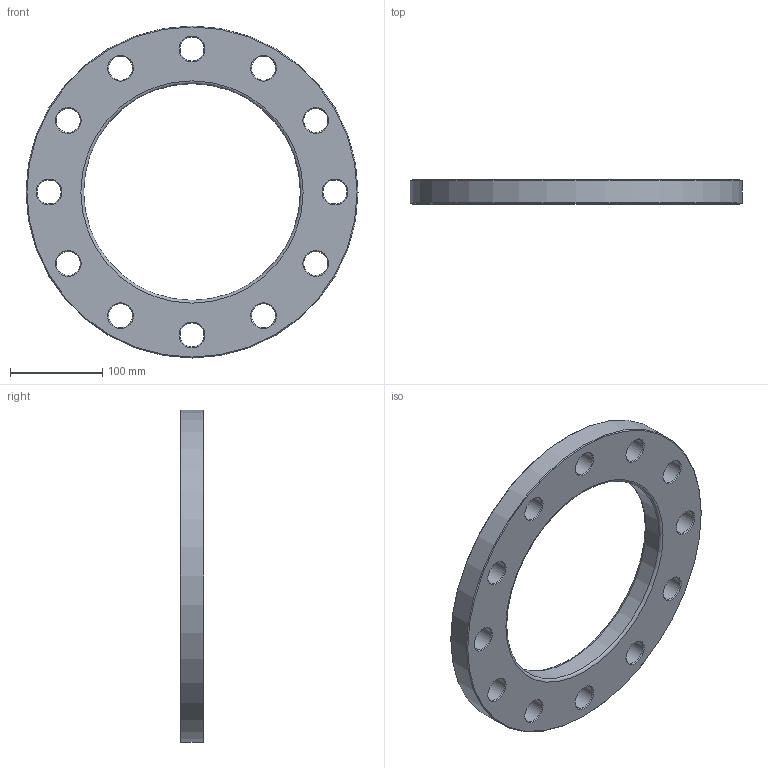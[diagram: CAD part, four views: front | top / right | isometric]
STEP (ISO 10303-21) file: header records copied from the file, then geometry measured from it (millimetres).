
FILE_DESCRIPTION(/* description */ ('Unknown'),/* implementation_level */ '2;1');
FILE_NAME(/* name */ 'FZ200H',/* time_stamp */ '2021-03-15T12:43:46+01:00',/* author */ ('Unknown'),/* organization */ ('Unknown'),/* preprocessor_version */ 'ST-DEVELOPER v16.7',/* originating_system */ 'Solid Edge',/* authorisation */ 'Unknown');
FILE_SCHEMA (('AUTOMOTIVE_DESIGN {1 0 10303 214 3 1 1}'));
Length unit declared in the file: millimetre
Products named in the file (1): FZ200H
Bounding box: 360 x 26 x 360 mm (x, y, z)
Volume: 1348111.5 mm3; surface area: 173832.8 mm2
Topology: 1 solids, 1 shells, 44 faces, 134 edges, 92 vertices
Faces by surface type: cone 26, cylinder 14, plane 2, torus 2
Full cylindrical faces by diameter (mm): 26 x12, 235 x1, 360 x1
Entity records: 1086 total; most frequent: DIRECTION 202, CARTESIAN_POINT 157, ORIENTED_EDGE 112, EDGE_LOOP 112, FACE_BOUND 112, AXIS2_PLACEMENT_3D 101, EDGE_CURVE 56, VERTEX_POINT 56
